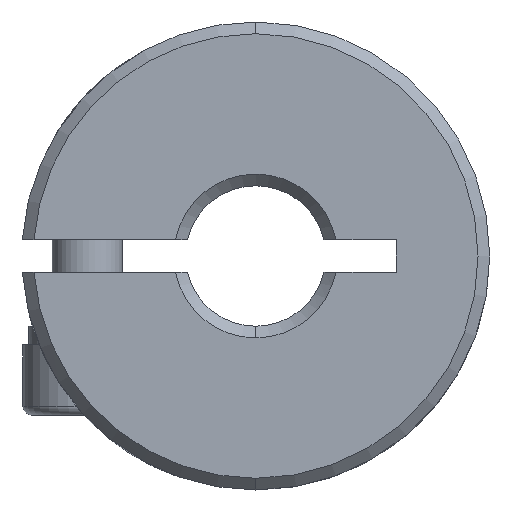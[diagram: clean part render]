
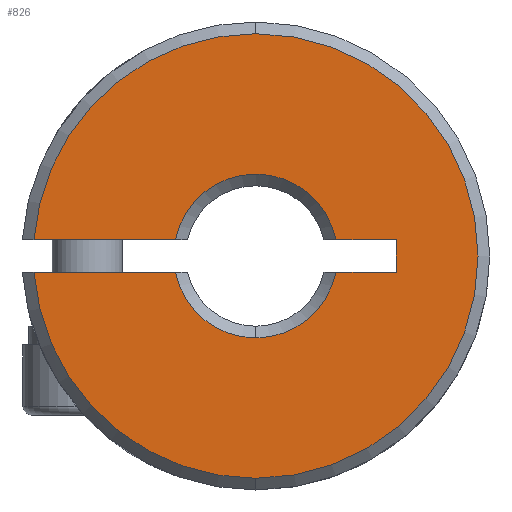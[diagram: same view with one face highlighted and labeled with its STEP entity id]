
A CAD part, front view. The second image highlights one B-rep face of the part: STEP entity #826.
In plain terms, the highlighted planar face has unit normal (0, -1, 0).
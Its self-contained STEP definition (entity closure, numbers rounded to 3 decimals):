
#16 = ORIENTED_EDGE ( 'NONE', *, *, #2693, .F. ) ;
#27 = DIRECTION ( 'NONE',  ( 0., 1., 0. ) ) ;
#116 = CARTESIAN_POINT ( 'NONE',  ( 6., 0.25, -0.7 ) ) ;
#227 = EDGE_LOOP ( 'NONE', ( #1940, #2371, #302, #3528, #16, #2397, #2400, #1644, #2261, #2653, #1093 ) ) ;
#250 = VECTOR ( 'NONE', #1917, 1000. ) ;
#251 = CIRCLE ( 'NONE', #297, 9.5 ) ;
#276 = DIRECTION ( 'NONE',  ( 0., 1., 0. ) ) ;
#293 = DIRECTION ( 'NONE',  ( 0., 0., 1. ) ) ;
#297 = AXIS2_PLACEMENT_3D ( 'NONE', #1095, #1970, #315 ) ;
#302 = ORIENTED_EDGE ( 'NONE', *, *, #1500, .T. ) ;
#315 = DIRECTION ( 'NONE',  ( 0., 0., 1. ) ) ;
#412 = DIRECTION ( 'NONE',  ( 0., 1., 0. ) ) ;
#424 = CARTESIAN_POINT ( 'NONE',  ( 6., 0.25, -0.7 ) ) ;
#484 = CIRCLE ( 'NONE', #1236, 3.5 ) ;
#524 = CARTESIAN_POINT ( 'NONE',  ( 6., 0.25, -0.7 ) ) ;
#526 = VERTEX_POINT ( 'NONE', #1919 ) ;
#531 = EDGE_CURVE ( 'NONE', #3079, #1598, #484, .T. ) ;
#599 = CARTESIAN_POINT ( 'NONE',  ( 0., 0.25, 0. ) ) ;
#602 = EDGE_CURVE ( 'NONE', #1451, #1598, #907, .T. ) ;
#624 = CARTESIAN_POINT ( 'NONE',  ( 6., 0.25, 0.7 ) ) ;
#632 = CIRCLE ( 'NONE', #2228, 3.5 ) ;
#670 = AXIS2_PLACEMENT_3D ( 'NONE', #1115, #276, #1955 ) ;
#708 = DIRECTION ( 'NONE',  ( 0., 0., 1. ) ) ;
#718 = CARTESIAN_POINT ( 'NONE',  ( -9.474, 0.25, 0.7 ) ) ;
#726 = VERTEX_POINT ( 'NONE', #3153 ) ;
#739 = CARTESIAN_POINT ( 'NONE',  ( 0., 0.25, 0. ) ) ;
#741 = CARTESIAN_POINT ( 'NONE',  ( 0., 0.25, 9.5 ) ) ;
#826 = ADVANCED_FACE ( 'NONE', ( #1511 ), #2787, .F. ) ;
#874 = EDGE_CURVE ( 'NONE', #1033, #2579, #251, .T. ) ;
#899 = LINE ( 'NONE', #1038, #1107 ) ;
#902 = LINE ( 'NONE', #524, #3061 ) ;
#907 = LINE ( 'NONE', #624, #2165 ) ;
#995 = AXIS2_PLACEMENT_3D ( 'NONE', #1649, #2485, #1915 ) ;
#999 = LINE ( 'NONE', #424, #1838 ) ;
#1033 = VERTEX_POINT ( 'NONE', #741 ) ;
#1038 = CARTESIAN_POINT ( 'NONE',  ( 6., 0.25, 0.7 ) ) ;
#1093 = ORIENTED_EDGE ( 'NONE', *, *, #2392, .T. ) ;
#1095 = CARTESIAN_POINT ( 'NONE',  ( 0., 0.25, 0. ) ) ;
#1107 = VECTOR ( 'NONE', #2162, 1000. ) ;
#1115 = CARTESIAN_POINT ( 'NONE',  ( -50., 0.25, 12. ) ) ;
#1142 = AXIS2_PLACEMENT_3D ( 'NONE', #599, #1427, #2278 ) ;
#1174 = EDGE_CURVE ( 'NONE', #2125, #1451, #3066, .T. ) ;
#1224 = DIRECTION ( 'NONE',  ( 0., 0., 1. ) ) ;
#1236 = AXIS2_PLACEMENT_3D ( 'NONE', #3362, #27, #293 ) ;
#1427 = DIRECTION ( 'NONE',  ( 0., -1., 0. ) ) ;
#1451 = VERTEX_POINT ( 'NONE', #3387 ) ;
#1500 = EDGE_CURVE ( 'NONE', #2888, #1033, #2900, .T. ) ;
#1511 = FACE_OUTER_BOUND ( 'NONE', #227, .T. ) ;
#1569 = EDGE_CURVE ( 'NONE', #726, #3031, #902, .T. ) ;
#1598 = VERTEX_POINT ( 'NONE', #2447 ) ;
#1644 = ORIENTED_EDGE ( 'NONE', *, *, #1174, .F. ) ;
#1649 = CARTESIAN_POINT ( 'NONE',  ( 0., 0.25, 0. ) ) ;
#1838 = VECTOR ( 'NONE', #2641, 1000. ) ;
#1915 = DIRECTION ( 'NONE',  ( 0., 0., 1. ) ) ;
#1917 = DIRECTION ( 'NONE',  ( 0., 0., 1. ) ) ;
#1919 = CARTESIAN_POINT ( 'NONE',  ( 3.429, 0.25, -0.7 ) ) ;
#1940 = ORIENTED_EDGE ( 'NONE', *, *, #1569, .F. ) ;
#1955 = DIRECTION ( 'NONE',  ( 0., 0., 1. ) ) ;
#1970 = DIRECTION ( 'NONE',  ( 0., -1., 0. ) ) ;
#1985 = CARTESIAN_POINT ( 'NONE',  ( 0., 0.25, -9.5 ) ) ;
#2112 = AXIS2_PLACEMENT_3D ( 'NONE', #739, #2955, #708 ) ;
#2125 = VERTEX_POINT ( 'NONE', #116 ) ;
#2162 = DIRECTION ( 'NONE',  ( -1., 0., 0. ) ) ;
#2165 = VECTOR ( 'NONE', #2565, 1000. ) ;
#2185 = EDGE_CURVE ( 'NONE', #526, #2125, #999, .T. ) ;
#2228 = AXIS2_PLACEMENT_3D ( 'NONE', #3430, #412, #1224 ) ;
#2239 = EDGE_CURVE ( 'NONE', #726, #2888, #3025, .T. ) ;
#2261 = ORIENTED_EDGE ( 'NONE', *, *, #2185, .F. ) ;
#2278 = DIRECTION ( 'NONE',  ( 0., 0., 1. ) ) ;
#2371 = ORIENTED_EDGE ( 'NONE', *, *, #2239, .T. ) ;
#2378 = CARTESIAN_POINT ( 'NONE',  ( -3.429, 0.25, -0.7 ) ) ;
#2392 = EDGE_CURVE ( 'NONE', #2984, #3031, #3417, .T. ) ;
#2397 = ORIENTED_EDGE ( 'NONE', *, *, #531, .T. ) ;
#2400 = ORIENTED_EDGE ( 'NONE', *, *, #602, .F. ) ;
#2447 = CARTESIAN_POINT ( 'NONE',  ( 3.429, 0.25, 0.7 ) ) ;
#2485 = DIRECTION ( 'NONE',  ( 0., 1., 0. ) ) ;
#2565 = DIRECTION ( 'NONE',  ( -1., 0., 0. ) ) ;
#2579 = VERTEX_POINT ( 'NONE', #718 ) ;
#2598 = CARTESIAN_POINT ( 'NONE',  ( 0., 0.25, -3.5 ) ) ;
#2641 = DIRECTION ( 'NONE',  ( 1., 0., 0. ) ) ;
#2653 = ORIENTED_EDGE ( 'NONE', *, *, #3458, .T. ) ;
#2693 = EDGE_CURVE ( 'NONE', #3079, #2579, #899, .T. ) ;
#2787 = PLANE ( 'NONE',  #670 ) ;
#2888 = VERTEX_POINT ( 'NONE', #1985 ) ;
#2900 = CIRCLE ( 'NONE', #1142, 9.5 ) ;
#2955 = DIRECTION ( 'NONE',  ( 0., -1., 0. ) ) ;
#2984 = VERTEX_POINT ( 'NONE', #2598 ) ;
#2999 = DIRECTION ( 'NONE',  ( 1., 0., 0. ) ) ;
#3025 = CIRCLE ( 'NONE', #2112, 9.5 ) ;
#3031 = VERTEX_POINT ( 'NONE', #2378 ) ;
#3061 = VECTOR ( 'NONE', #2999, 1000. ) ;
#3066 = LINE ( 'NONE', #3307, #250 ) ;
#3079 = VERTEX_POINT ( 'NONE', #3571 ) ;
#3153 = CARTESIAN_POINT ( 'NONE',  ( -9.474, 0.25, -0.7 ) ) ;
#3307 = CARTESIAN_POINT ( 'NONE',  ( 6., 0.25, 0.7 ) ) ;
#3362 = CARTESIAN_POINT ( 'NONE',  ( 0., 0.25, 0. ) ) ;
#3387 = CARTESIAN_POINT ( 'NONE',  ( 6., 0.25, 0.7 ) ) ;
#3417 = CIRCLE ( 'NONE', #995, 3.5 ) ;
#3430 = CARTESIAN_POINT ( 'NONE',  ( 0., 0.25, 0. ) ) ;
#3458 = EDGE_CURVE ( 'NONE', #526, #2984, #632, .T. ) ;
#3528 = ORIENTED_EDGE ( 'NONE', *, *, #874, .T. ) ;
#3571 = CARTESIAN_POINT ( 'NONE',  ( -3.429, 0.25, 0.7 ) ) ;
